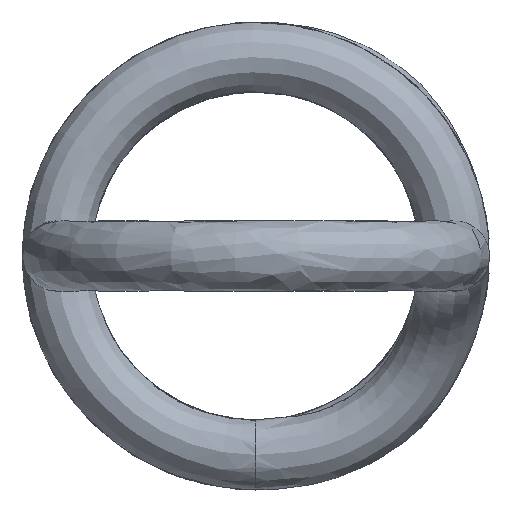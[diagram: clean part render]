
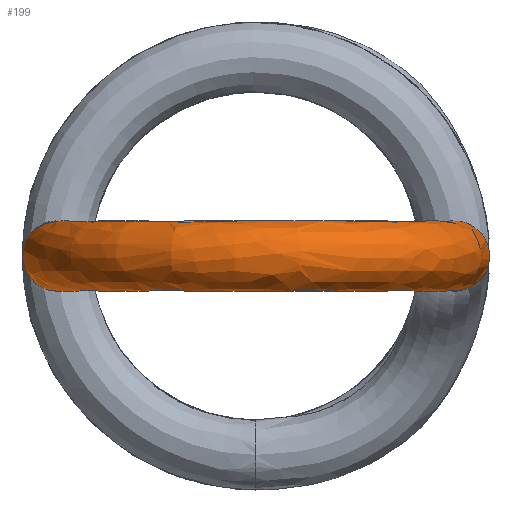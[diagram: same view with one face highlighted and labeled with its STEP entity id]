
A CAD part, front view. The second image highlights one B-rep face of the part: STEP entity #199.
In plain terms, the highlighted free-form (B-spline) face has degree [2, 2] with [9, 7] control points.
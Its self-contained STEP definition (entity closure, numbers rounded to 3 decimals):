
#15=(
BOUNDED_SURFACE()
B_SPLINE_SURFACE(2,2,((#807,#808,#809,#810,#811,#812,#813),(#814,#815,#816,
#817,#818,#819,#820),(#821,#822,#823,#824,#825,#826,#827),(#828,#829,#830,
#831,#832,#833,#834),(#835,#836,#837,#838,#839,#840,#841),(#842,#843,#844,
#845,#846,#847,#848),(#849,#850,#851,#852,#853,#854,#855),(#856,#857,#858,
#859,#860,#861,#862),(#863,#864,#865,#866,#867,#868,#869)),
 .UNSPECIFIED.,.T.,.F.,.F.)
B_SPLINE_SURFACE_WITH_KNOTS((3,2,2,2,3),(3,2,2,3),(0.,1.571,3.142,
4.712,6.283),(0.,1.106,2.212,
3.318),.UNSPECIFIED.)
GEOMETRIC_REPRESENTATION_ITEM()
RATIONAL_B_SPLINE_SURFACE(((1.,0.851,1.,0.851,1.,
0.851,1.),(0.707,0.602,0.707,
0.602,0.707,0.602,0.707),
(1.,0.851,1.,0.851,1.,0.851,1.),(0.707,
0.602,0.707,0.602,0.707,0.602,
0.707),(1.,0.851,1.,0.851,1.,0.851,
1.),(0.707,0.602,0.707,0.602,
0.707,0.602,0.707),(1.,0.851,
1.,0.851,1.,0.851,1.),(0.707,0.602,
0.707,0.602,0.707,0.602,
0.707),(1.,0.851,1.,0.851,1.,0.851,
1.)))
REPRESENTATION_ITEM('')
SURFACE()
);
#22=CIRCLE('',#234,0.9);
#23=CIRCLE('',#235,4.715);
#24=CIRCLE('',#236,0.9);
#37=FACE_OUTER_BOUND('',#48,.T.);
#48=EDGE_LOOP('',(#142,#143,#144,#145));
#85=VERTEX_POINT('',#736);
#88=VERTEX_POINT('',#870);
#106=EDGE_CURVE('',#85,#85,#22,.T.);
#109=EDGE_CURVE('',#85,#88,#23,.T.);
#110=EDGE_CURVE('',#88,#88,#24,.T.);
#142=ORIENTED_EDGE('',*,*,#106,.T.);
#143=ORIENTED_EDGE('',*,*,#109,.T.);
#144=ORIENTED_EDGE('',*,*,#110,.F.);
#145=ORIENTED_EDGE('',*,*,#109,.F.);
#199=ADVANCED_FACE('',(#37),#15,.T.);
#234=AXIS2_PLACEMENT_3D('',#747,#256,#257);
#235=AXIS2_PLACEMENT_3D('',#871,#258,#259);
#236=AXIS2_PLACEMENT_3D('',#872,#260,#261);
#256=DIRECTION('center_axis',(0.,-1.,0.));
#257=DIRECTION('ref_axis',(-0.428,0.,-0.904));
#258=DIRECTION('center_axis',(0.,0.,
-1.));
#259=DIRECTION('ref_axis',(1.,0.,0.));
#260=DIRECTION('center_axis',(0.176,0.984,0.));
#261=DIRECTION('ref_axis',(0.421,-0.075,-0.904));
#736=CARTESIAN_POINT('',(4.715,-30.5,-0.813));
#747=CARTESIAN_POINT('Origin',(5.1,-30.5,0.));
#807=CARTESIAN_POINT('Ctrl Pts',(4.715,-30.5,-0.813));
#808=CARTESIAN_POINT('Ctrl Pts',(4.715,-33.411,-0.813));
#809=CARTESIAN_POINT('Ctrl Pts',(2.113,-34.715,-0.813));
#810=CARTESIAN_POINT('Ctrl Pts',(-0.489,-36.019,-0.813));
#811=CARTESIAN_POINT('Ctrl Pts',(-2.821,-34.278,-0.813));
#812=CARTESIAN_POINT('Ctrl Pts',(-5.153,-32.536,-0.813));
#813=CARTESIAN_POINT('Ctrl Pts',(-4.642,-29.671,-0.813));
#814=CARTESIAN_POINT('Ctrl Pts',(5.528,-30.5,-1.199));
#815=CARTESIAN_POINT('Ctrl Pts',(5.528,-33.913,-1.199));
#816=CARTESIAN_POINT('Ctrl Pts',(2.478,-35.442,-1.199));
#817=CARTESIAN_POINT('Ctrl Pts',(-0.573,-36.972,-1.199));
#818=CARTESIAN_POINT('Ctrl Pts',(-3.308,-34.93,-1.199));
#819=CARTESIAN_POINT('Ctrl Pts',(-6.042,-32.888,-1.199));
#820=CARTESIAN_POINT('Ctrl Pts',(-5.442,-29.528,-1.199));
#821=CARTESIAN_POINT('Ctrl Pts',(5.913,-30.5,-0.385));
#822=CARTESIAN_POINT('Ctrl Pts',(5.913,-34.15,-0.385));
#823=CARTESIAN_POINT('Ctrl Pts',(2.65,-35.786,-0.385));
#824=CARTESIAN_POINT('Ctrl Pts',(-0.613,-37.422,-0.385));
#825=CARTESIAN_POINT('Ctrl Pts',(-3.538,-35.238,-0.385));
#826=CARTESIAN_POINT('Ctrl Pts',(-6.463,-33.054,-0.385));
#827=CARTESIAN_POINT('Ctrl Pts',(-5.821,-29.461,-0.385));
#828=CARTESIAN_POINT('Ctrl Pts',(6.299,-30.5,0.428));
#829=CARTESIAN_POINT('Ctrl Pts',(6.299,-34.388,0.428));
#830=CARTESIAN_POINT('Ctrl Pts',(2.823,-36.131,0.428));
#831=CARTESIAN_POINT('Ctrl Pts',(-0.653,-37.873,0.428));
#832=CARTESIAN_POINT('Ctrl Pts',(-3.769,-35.547,0.428));
#833=CARTESIAN_POINT('Ctrl Pts',(-6.884,-33.22,0.428));
#834=CARTESIAN_POINT('Ctrl Pts',(-6.2,-29.393,0.428));
#835=CARTESIAN_POINT('Ctrl Pts',(5.485,-30.5,0.813));
#836=CARTESIAN_POINT('Ctrl Pts',(5.485,-33.886,0.813));
#837=CARTESIAN_POINT('Ctrl Pts',(2.458,-35.403,0.813));
#838=CARTESIAN_POINT('Ctrl Pts',(-0.569,-36.921,0.813));
#839=CARTESIAN_POINT('Ctrl Pts',(-3.282,-34.895,0.813));
#840=CARTESIAN_POINT('Ctrl Pts',(-5.995,-32.869,0.813));
#841=CARTESIAN_POINT('Ctrl Pts',(-5.4,-29.536,0.813));
#842=CARTESIAN_POINT('Ctrl Pts',(4.672,-30.5,1.199));
#843=CARTESIAN_POINT('Ctrl Pts',(4.672,-33.384,1.199));
#844=CARTESIAN_POINT('Ctrl Pts',(2.094,-34.676,1.199));
#845=CARTESIAN_POINT('Ctrl Pts',(-0.484,-35.969,1.199));
#846=CARTESIAN_POINT('Ctrl Pts',(-2.795,-34.243,1.199));
#847=CARTESIAN_POINT('Ctrl Pts',(-5.106,-32.518,1.199));
#848=CARTESIAN_POINT('Ctrl Pts',(-4.599,-29.679,1.199));
#849=CARTESIAN_POINT('Ctrl Pts',(4.287,-30.5,0.385));
#850=CARTESIAN_POINT('Ctrl Pts',(4.287,-33.146,0.385));
#851=CARTESIAN_POINT('Ctrl Pts',(1.921,-34.332,0.385));
#852=CARTESIAN_POINT('Ctrl Pts',(-0.444,-35.518,0.385));
#853=CARTESIAN_POINT('Ctrl Pts',(-2.565,-33.935,0.385));
#854=CARTESIAN_POINT('Ctrl Pts',(-4.685,-32.351,0.385));
#855=CARTESIAN_POINT('Ctrl Pts',(-4.22,-29.747,0.385));
#856=CARTESIAN_POINT('Ctrl Pts',(3.901,-30.5,-0.428));
#857=CARTESIAN_POINT('Ctrl Pts',(3.901,-32.908,-0.428));
#858=CARTESIAN_POINT('Ctrl Pts',(1.748,-33.988,-0.428));
#859=CARTESIAN_POINT('Ctrl Pts',(-0.405,-35.067,-0.428));
#860=CARTESIAN_POINT('Ctrl Pts',(-2.334,-33.626,-0.428));
#861=CARTESIAN_POINT('Ctrl Pts',(-4.264,-32.185,-0.428));
#862=CARTESIAN_POINT('Ctrl Pts',(-3.841,-29.814,-0.428));
#863=CARTESIAN_POINT('Ctrl Pts',(4.715,-30.5,-0.813));
#864=CARTESIAN_POINT('Ctrl Pts',(4.715,-33.411,-0.813));
#865=CARTESIAN_POINT('Ctrl Pts',(2.113,-34.715,-0.813));
#866=CARTESIAN_POINT('Ctrl Pts',(-0.489,-36.019,-0.813));
#867=CARTESIAN_POINT('Ctrl Pts',(-2.821,-34.278,-0.813));
#868=CARTESIAN_POINT('Ctrl Pts',(-5.153,-32.536,-0.813));
#869=CARTESIAN_POINT('Ctrl Pts',(-4.642,-29.671,-0.813));
#870=CARTESIAN_POINT('',(-4.642,-29.671,-0.813));
#871=CARTESIAN_POINT('Origin',(0.,-30.5,-0.813));
#872=CARTESIAN_POINT('Origin',(-5.021,-29.604,0.));
